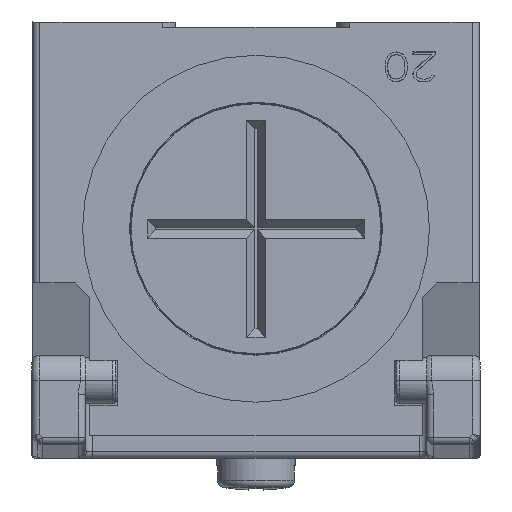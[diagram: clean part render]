
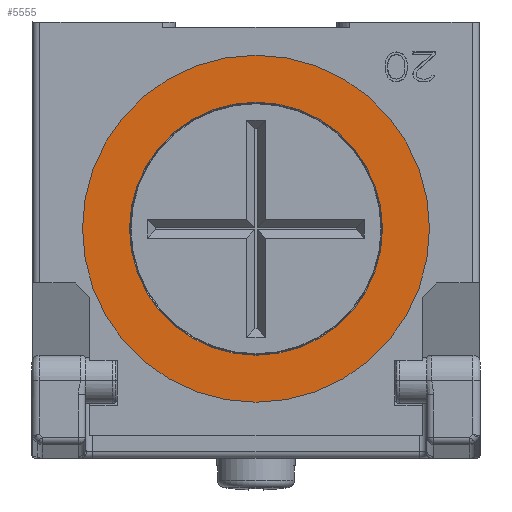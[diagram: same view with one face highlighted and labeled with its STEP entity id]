
A CAD part, front view. The second image highlights one B-rep face of the part: STEP entity #5555.
In plain terms, the highlighted planar face has unit normal (0, -1, 0) as drawn and (-1, 0, 0) by its records, which use the part's own axes.
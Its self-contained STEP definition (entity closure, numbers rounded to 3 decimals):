
#1616=FACE_BOUND('',#8242,.T.);
#1617=FACE_BOUND('',#8243,.T.);
#5555=ADVANCED_FACE('',(#1616,#1617),#6627,.F.);
#6627=PLANE('',#20876);
#8242=EDGE_LOOP('',(#9426,#9427));
#8243=EDGE_LOOP('',(#9428,#9429));
#9426=ORIENTED_EDGE('',*,*,#17118,.F.);
#9427=ORIENTED_EDGE('',*,*,#17116,.T.);
#9428=ORIENTED_EDGE('',*,*,#17119,.T.);
#9429=ORIENTED_EDGE('',*,*,#17120,.T.);
#15220=VERTEX_POINT('',#28643);
#15221=VERTEX_POINT('',#28645);
#15222=VERTEX_POINT('',#28651);
#15223=VERTEX_POINT('',#28652);
#17116=EDGE_CURVE('',#15221,#15220,#20017,.T.);
#17118=EDGE_CURVE('',#15221,#15220,#20018,.T.);
#17119=EDGE_CURVE('',#15222,#15223,#20019,.T.);
#17120=EDGE_CURVE('',#15223,#15222,#20020,.T.);
#20017=CIRCLE('',#20870,12.);
#20018=CIRCLE('',#20872,12.);
#20019=CIRCLE('',#20874,8.75);
#20020=CIRCLE('',#20875,8.75);
#20870=AXIS2_PLACEMENT_3D('',#28644,#22835,#22836);
#20872=AXIS2_PLACEMENT_3D('',#28648,#22840,#22841);
#20874=AXIS2_PLACEMENT_3D('',#28650,#22844,#22845);
#20875=AXIS2_PLACEMENT_3D('',#28653,#22846,#22847);
#20876=AXIS2_PLACEMENT_3D('',#28654,#22848,#22849);
#22835=DIRECTION('',(-1.,0.,0.));
#22836=DIRECTION('',(0.,1.,0.));
#22840=DIRECTION('',(1.,0.,0.));
#22841=DIRECTION('',(0.,1.,0.));
#22844=DIRECTION('',(1.,0.,0.));
#22845=DIRECTION('',(0.,-1.,0.));
#22846=DIRECTION('',(1.,0.,0.));
#22847=DIRECTION('',(0.,1.,0.));
#22848=DIRECTION('',(1.,0.,0.));
#22849=DIRECTION('',(0.,-1.,0.));
#28643=CARTESIAN_POINT('',(0.,-12.,0.));
#28644=CARTESIAN_POINT('',(0.,0.,0.));
#28645=CARTESIAN_POINT('',(0.,12.,0.));
#28648=CARTESIAN_POINT('',(0.,0.,0.));
#28650=CARTESIAN_POINT('',(0.,0.,0.));
#28651=CARTESIAN_POINT('',(0.,-8.75,0.));
#28652=CARTESIAN_POINT('',(0.,8.75,0.));
#28653=CARTESIAN_POINT('',(0.,0.,0.));
#28654=CARTESIAN_POINT('',(0.,0.,0.));
